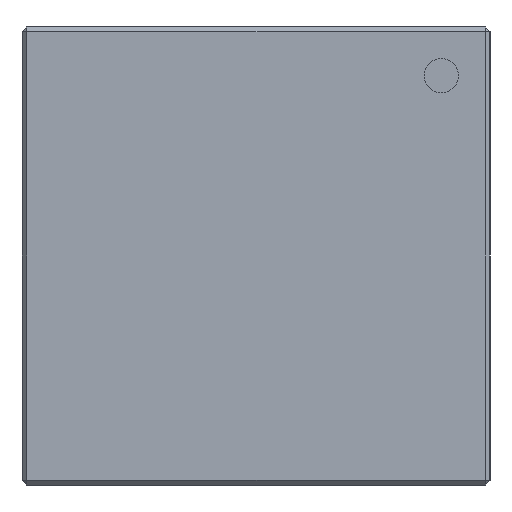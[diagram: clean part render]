
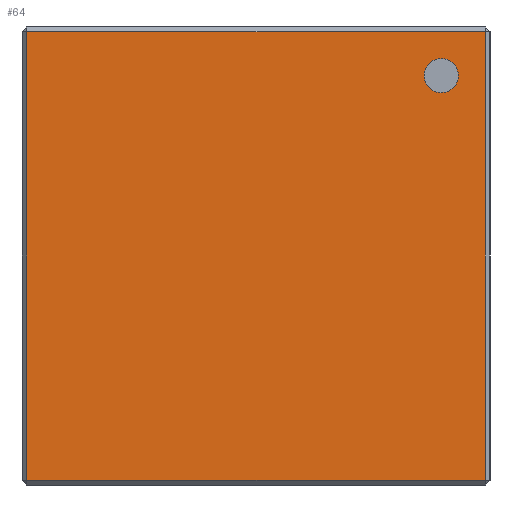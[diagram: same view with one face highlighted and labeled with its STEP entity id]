
A CAD part, left-side view. The second image highlights one B-rep face of the part: STEP entity #64.
In plain terms, the highlighted planar face has unit normal (-1, 0, 0).
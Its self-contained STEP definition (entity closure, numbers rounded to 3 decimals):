
#39 = AXIS2_PLACEMENT_3D ( 'NONE', #688, #1381, #209 ) ;
#64 = ADVANCED_FACE ( 'NONE', ( #1363, #1610 ), #1092, .F. ) ;
#97 = DIRECTION ( 'NONE',  ( 0., 0., 1. ) ) ;
#147 = LINE ( 'NONE', #1861, #306 ) ;
#172 = CARTESIAN_POINT ( 'NONE',  ( -49.25, -19., 42. ) ) ;
#175 = LINE ( 'NONE', #1904, #1461 ) ;
#196 = CARTESIAN_POINT ( 'NONE',  ( -49.25, -19., 43.75 ) ) ;
#209 = DIRECTION ( 'NONE',  ( 0., 0., 1. ) ) ;
#228 = EDGE_CURVE ( 'NONE', #695, #758, #849, .T. ) ;
#257 = CARTESIAN_POINT ( 'NONE',  ( -49.25, -19., 40.25 ) ) ;
#275 = VECTOR ( 'NONE', #983, 1000. ) ;
#294 = CARTESIAN_POINT ( 'NONE',  ( -49.25, -23.5, 47. ) ) ;
#306 = VECTOR ( 'NONE', #1681, 1000. ) ;
#361 = AXIS2_PLACEMENT_3D ( 'NONE', #172, #1902, #1711 ) ;
#378 = EDGE_CURVE ( 'NONE', #814, #1430, #1650, .T. ) ;
#415 = CARTESIAN_POINT ( 'NONE',  ( -49.25, -23.5, 46.5 ) ) ;
#429 = CIRCLE ( 'NONE', #361, 1.75 ) ;
#487 = LINE ( 'NONE', #294, #1695 ) ;
#586 = CARTESIAN_POINT ( 'NONE',  ( -49.25, 23.5, 0.5 ) ) ;
#688 = CARTESIAN_POINT ( 'NONE',  ( -49.25, -19., 42. ) ) ;
#695 = VERTEX_POINT ( 'NONE', #196 ) ;
#701 = CARTESIAN_POINT ( 'NONE',  ( -49.25, 23.5, 46.5 ) ) ;
#758 = VERTEX_POINT ( 'NONE', #257 ) ;
#761 = ORIENTED_EDGE ( 'NONE', *, *, #228, .F. ) ;
#814 = VERTEX_POINT ( 'NONE', #586 ) ;
#842 = EDGE_CURVE ( 'NONE', #1364, #1045, #147, .T. ) ;
#849 = CIRCLE ( 'NONE', #39, 1.75 ) ;
#861 = CARTESIAN_POINT ( 'NONE',  ( -49.25, -23.5, 0.5 ) ) ;
#872 = EDGE_CURVE ( 'NONE', #1430, #1364, #487, .T. ) ;
#893 = ORIENTED_EDGE ( 'NONE', *, *, #872, .T. ) ;
#925 = DIRECTION ( 'NONE',  ( 1., 0., 0. ) ) ;
#948 = ORIENTED_EDGE ( 'NONE', *, *, #378, .T. ) ;
#960 = EDGE_LOOP ( 'NONE', ( #893, #1589, #1183, #948 ) ) ;
#983 = DIRECTION ( 'NONE',  ( 0., -1., 0. ) ) ;
#1031 = ORIENTED_EDGE ( 'NONE', *, *, #1399, .F. ) ;
#1045 = VERTEX_POINT ( 'NONE', #701 ) ;
#1079 = CARTESIAN_POINT ( 'NONE',  ( -49.25, 24., 47. ) ) ;
#1092 = PLANE ( 'NONE',  #1127 ) ;
#1119 = EDGE_CURVE ( 'NONE', #1045, #814, #175, .T. ) ;
#1127 = AXIS2_PLACEMENT_3D ( 'NONE', #1079, #925, #1413 ) ;
#1131 = EDGE_LOOP ( 'NONE', ( #761, #1031 ) ) ;
#1183 = ORIENTED_EDGE ( 'NONE', *, *, #1119, .T. ) ;
#1363 = FACE_BOUND ( 'NONE', #1131, .T. ) ;
#1364 = VERTEX_POINT ( 'NONE', #415 ) ;
#1381 = DIRECTION ( 'NONE',  ( -1., 0., 0. ) ) ;
#1399 = EDGE_CURVE ( 'NONE', #758, #695, #429, .T. ) ;
#1413 = DIRECTION ( 'NONE',  ( 0., 1., 0. ) ) ;
#1430 = VERTEX_POINT ( 'NONE', #861 ) ;
#1461 = VECTOR ( 'NONE', #1712, 1000. ) ;
#1589 = ORIENTED_EDGE ( 'NONE', *, *, #842, .T. ) ;
#1610 = FACE_OUTER_BOUND ( 'NONE', #960, .T. ) ;
#1650 = LINE ( 'NONE', #1834, #275 ) ;
#1681 = DIRECTION ( 'NONE',  ( 0., 1., 0. ) ) ;
#1695 = VECTOR ( 'NONE', #97, 1000. ) ;
#1711 = DIRECTION ( 'NONE',  ( 0., 0., 1. ) ) ;
#1712 = DIRECTION ( 'NONE',  ( 0., 0., -1. ) ) ;
#1834 = CARTESIAN_POINT ( 'NONE',  ( -49.25, 24., 0.5 ) ) ;
#1861 = CARTESIAN_POINT ( 'NONE',  ( -49.25, 24., 46.5 ) ) ;
#1902 = DIRECTION ( 'NONE',  ( -1., 0., 0. ) ) ;
#1904 = CARTESIAN_POINT ( 'NONE',  ( -49.25, 23.5, 47. ) ) ;
